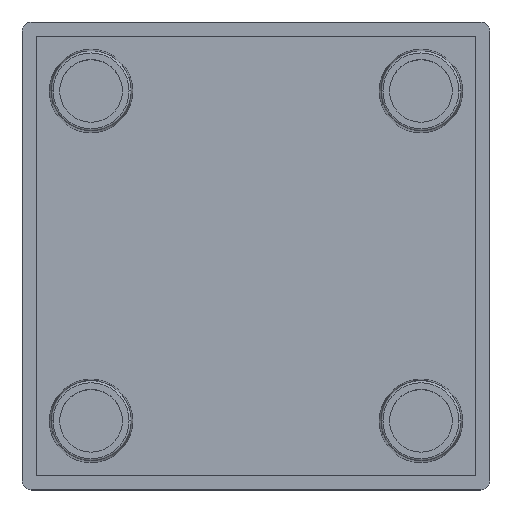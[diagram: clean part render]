
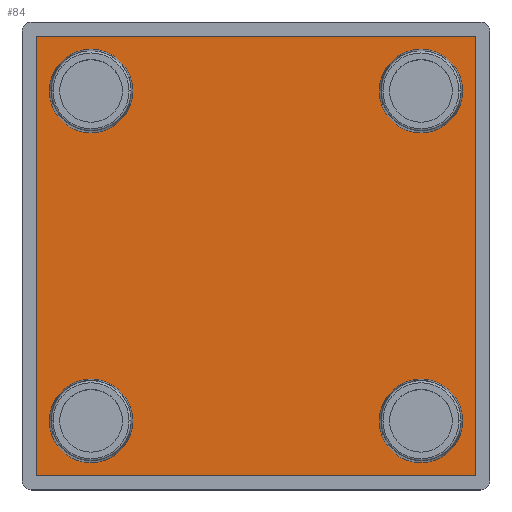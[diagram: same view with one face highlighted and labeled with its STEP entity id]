
A CAD part, top view. The second image highlights one B-rep face of the part: STEP entity #84.
In plain terms, the highlighted planar face has unit normal (0, 0, 1).
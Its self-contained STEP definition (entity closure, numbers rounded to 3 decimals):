
#3 = CARTESIAN_POINT ( 'NONE',  ( 13.175, 17.625, 1.5 ) ) ;
#18 = CARTESIAN_POINT ( 'NONE',  ( -23.5, -23.5, 1.5 ) ) ;
#32 = EDGE_CURVE ( 'NONE', #44, #379, #1036, .T. ) ;
#44 = VERTEX_POINT ( 'NONE', #252 ) ;
#69 = DIRECTION ( 'NONE',  ( 0., 0., -1. ) ) ;
#79 = FACE_BOUND ( 'NONE', #1064, .T. ) ;
#82 = AXIS2_PLACEMENT_3D ( 'NONE', #490, #366, #457 ) ;
#84 = ADVANCED_FACE ( 'NONE', ( #1074, #1392, #79, #1508, #756 ), #881, .F. ) ;
#121 = CARTESIAN_POINT ( 'NONE',  ( -23.5, 23.5, 1.5 ) ) ;
#127 = CARTESIAN_POINT ( 'NONE',  ( -23.5, -23.5, 1.5 ) ) ;
#142 = AXIS2_PLACEMENT_3D ( 'NONE', #1113, #1507, #1512 ) ;
#146 = VERTEX_POINT ( 'NONE', #890 ) ;
#150 = DIRECTION ( 'NONE',  ( 1., 0., 0. ) ) ;
#218 = ORIENTED_EDGE ( 'NONE', *, *, #1586, .F. ) ;
#228 = AXIS2_PLACEMENT_3D ( 'NONE', #1491, #285, #1240 ) ;
#252 = CARTESIAN_POINT ( 'NONE',  ( -13.175, 17.625, 1.5 ) ) ;
#285 = DIRECTION ( 'NONE',  ( 0., 0., 1. ) ) ;
#292 = ORIENTED_EDGE ( 'NONE', *, *, #730, .T. ) ;
#302 = ORIENTED_EDGE ( 'NONE', *, *, #1469, .F. ) ;
#303 = DIRECTION ( 'NONE',  ( 0., 0., 1. ) ) ;
#326 = AXIS2_PLACEMENT_3D ( 'NONE', #1098, #303, #447 ) ;
#332 = CIRCLE ( 'NONE', #1644, 4.45 ) ;
#360 = EDGE_CURVE ( 'NONE', #1169, #1537, #1694, .T. ) ;
#366 = DIRECTION ( 'NONE',  ( 0., 0., 1. ) ) ;
#379 = VERTEX_POINT ( 'NONE', #680 ) ;
#407 = CARTESIAN_POINT ( 'NONE',  ( -23.5, -23.5, 1.5 ) ) ;
#444 = DIRECTION ( 'NONE',  ( -1., 0., 0. ) ) ;
#447 = DIRECTION ( 'NONE',  ( -1., 0., 0. ) ) ;
#457 = DIRECTION ( 'NONE',  ( -1., 0., 0. ) ) ;
#465 = ORIENTED_EDGE ( 'NONE', *, *, #1269, .F. ) ;
#475 = CIRCLE ( 'NONE', #82, 4.45 ) ;
#490 = CARTESIAN_POINT ( 'NONE',  ( 17.625, -17.625, 1.5 ) ) ;
#515 = CIRCLE ( 'NONE', #1394, 4.45 ) ;
#519 = CARTESIAN_POINT ( 'NONE',  ( -22.075, -17.625, 1.5 ) ) ;
#535 = DIRECTION ( 'NONE',  ( 0., -1., 0. ) ) ;
#538 = ORIENTED_EDGE ( 'NONE', *, *, #32, .F. ) ;
#556 = LINE ( 'NONE', #127, #983 ) ;
#565 = AXIS2_PLACEMENT_3D ( 'NONE', #595, #863, #1005 ) ;
#567 = CARTESIAN_POINT ( 'NONE',  ( 22.075, -17.625, 1.5 ) ) ;
#585 = DIRECTION ( 'NONE',  ( 0., 0., 1. ) ) ;
#595 = CARTESIAN_POINT ( 'NONE',  ( 17.625, 17.625, 1.5 ) ) ;
#602 = EDGE_CURVE ( 'NONE', #146, #1524, #515, .T. ) ;
#680 = CARTESIAN_POINT ( 'NONE',  ( -22.075, 17.625, 1.5 ) ) ;
#700 = DIRECTION ( 'NONE',  ( 0., 1., 0. ) ) ;
#712 = DIRECTION ( 'NONE',  ( 0., 0., 1. ) ) ;
#717 = EDGE_LOOP ( 'NONE', ( #1654, #1478 ) ) ;
#730 = EDGE_CURVE ( 'NONE', #1537, #909, #556, .T. ) ;
#748 = VERTEX_POINT ( 'NONE', #975 ) ;
#756 = FACE_OUTER_BOUND ( 'NONE', #981, .T. ) ;
#786 = LINE ( 'NONE', #1382, #1201 ) ;
#787 = ORIENTED_EDGE ( 'NONE', *, *, #602, .F. ) ;
#798 = DIRECTION ( 'NONE',  ( -1., 0., 0. ) ) ;
#804 = CARTESIAN_POINT ( 'NONE',  ( 23.5, -23.5, 1.5 ) ) ;
#822 = AXIS2_PLACEMENT_3D ( 'NONE', #1047, #1056, #1062 ) ;
#835 = CARTESIAN_POINT ( 'NONE',  ( 17.625, -17.625, 1.5 ) ) ;
#863 = DIRECTION ( 'NONE',  ( 0., 0., 1. ) ) ;
#868 = EDGE_CURVE ( 'NONE', #909, #748, #1368, .T. ) ;
#881 = PLANE ( 'NONE',  #1453 ) ;
#889 = VERTEX_POINT ( 'NONE', #519 ) ;
#890 = CARTESIAN_POINT ( 'NONE',  ( 13.175, -17.625, 1.5 ) ) ;
#900 = CIRCLE ( 'NONE', #228, 4.45 ) ;
#901 = ORIENTED_EDGE ( 'NONE', *, *, #1530, .T. ) ;
#909 = VERTEX_POINT ( 'NONE', #804 ) ;
#915 = CARTESIAN_POINT ( 'NONE',  ( -17.625, -17.625, 1.5 ) ) ;
#975 = CARTESIAN_POINT ( 'NONE',  ( 23.5, 23.5, 1.5 ) ) ;
#981 = EDGE_LOOP ( 'NONE', ( #1268, #901, #1442, #292 ) ) ;
#983 = VECTOR ( 'NONE', #150, 1000. ) ;
#991 = VERTEX_POINT ( 'NONE', #3 ) ;
#1005 = DIRECTION ( 'NONE',  ( -1., 0., 0. ) ) ;
#1015 = DIRECTION ( 'NONE',  ( -1., 0., 0. ) ) ;
#1036 = CIRCLE ( 'NONE', #822, 4.45 ) ;
#1047 = CARTESIAN_POINT ( 'NONE',  ( -17.625, 17.625, 1.5 ) ) ;
#1056 = DIRECTION ( 'NONE',  ( 0., 0., 1. ) ) ;
#1062 = DIRECTION ( 'NONE',  ( -1., 0., 0. ) ) ;
#1064 = EDGE_LOOP ( 'NONE', ( #302, #1107 ) ) ;
#1074 = FACE_BOUND ( 'NONE', #1325, .T. ) ;
#1091 = CARTESIAN_POINT ( 'NONE',  ( -13.175, -17.625, 1.5 ) ) ;
#1098 = CARTESIAN_POINT ( 'NONE',  ( 17.625, 17.625, 1.5 ) ) ;
#1107 = ORIENTED_EDGE ( 'NONE', *, *, #1249, .F. ) ;
#1113 = CARTESIAN_POINT ( 'NONE',  ( -17.625, -17.625, 1.5 ) ) ;
#1127 = CIRCLE ( 'NONE', #565, 4.45 ) ;
#1145 = EDGE_CURVE ( 'NONE', #991, #1402, #1127, .T. ) ;
#1169 = VERTEX_POINT ( 'NONE', #121 ) ;
#1197 = VERTEX_POINT ( 'NONE', #1091 ) ;
#1201 = VECTOR ( 'NONE', #444, 1000. ) ;
#1240 = DIRECTION ( 'NONE',  ( -1., 0., 0. ) ) ;
#1249 = EDGE_CURVE ( 'NONE', #1197, #889, #332, .T. ) ;
#1268 = ORIENTED_EDGE ( 'NONE', *, *, #868, .T. ) ;
#1269 = EDGE_CURVE ( 'NONE', #1524, #146, #475, .T. ) ;
#1284 = CIRCLE ( 'NONE', #326, 4.45 ) ;
#1325 = EDGE_LOOP ( 'NONE', ( #787, #465 ) ) ;
#1348 = VECTOR ( 'NONE', #535, 1000. ) ;
#1368 = LINE ( 'NONE', #1371, #1687 ) ;
#1371 = CARTESIAN_POINT ( 'NONE',  ( 23.5, -23.5, 1.5 ) ) ;
#1382 = CARTESIAN_POINT ( 'NONE',  ( -23.5, 23.5, 1.5 ) ) ;
#1392 = FACE_BOUND ( 'NONE', #717, .T. ) ;
#1394 = AXIS2_PLACEMENT_3D ( 'NONE', #835, #712, #798 ) ;
#1402 = VERTEX_POINT ( 'NONE', #1553 ) ;
#1421 = CARTESIAN_POINT ( 'NONE',  ( 0., 0., 1.5 ) ) ;
#1442 = ORIENTED_EDGE ( 'NONE', *, *, #360, .T. ) ;
#1453 = AXIS2_PLACEMENT_3D ( 'NONE', #1421, #69, #1015 ) ;
#1469 = EDGE_CURVE ( 'NONE', #889, #1197, #1565, .T. ) ;
#1478 = ORIENTED_EDGE ( 'NONE', *, *, #1496, .F. ) ;
#1483 = EDGE_LOOP ( 'NONE', ( #218, #538 ) ) ;
#1491 = CARTESIAN_POINT ( 'NONE',  ( -17.625, 17.625, 1.5 ) ) ;
#1496 = EDGE_CURVE ( 'NONE', #1402, #991, #1284, .T. ) ;
#1507 = DIRECTION ( 'NONE',  ( 0., 0., 1. ) ) ;
#1508 = FACE_BOUND ( 'NONE', #1483, .T. ) ;
#1512 = DIRECTION ( 'NONE',  ( -1., 0., 0. ) ) ;
#1524 = VERTEX_POINT ( 'NONE', #567 ) ;
#1530 = EDGE_CURVE ( 'NONE', #748, #1169, #786, .T. ) ;
#1533 = DIRECTION ( 'NONE',  ( -1., 0., 0. ) ) ;
#1537 = VERTEX_POINT ( 'NONE', #18 ) ;
#1553 = CARTESIAN_POINT ( 'NONE',  ( 22.075, 17.625, 1.5 ) ) ;
#1565 = CIRCLE ( 'NONE', #142, 4.45 ) ;
#1586 = EDGE_CURVE ( 'NONE', #379, #44, #900, .T. ) ;
#1644 = AXIS2_PLACEMENT_3D ( 'NONE', #915, #585, #1533 ) ;
#1654 = ORIENTED_EDGE ( 'NONE', *, *, #1145, .F. ) ;
#1687 = VECTOR ( 'NONE', #700, 1000. ) ;
#1694 = LINE ( 'NONE', #407, #1348 ) ;
